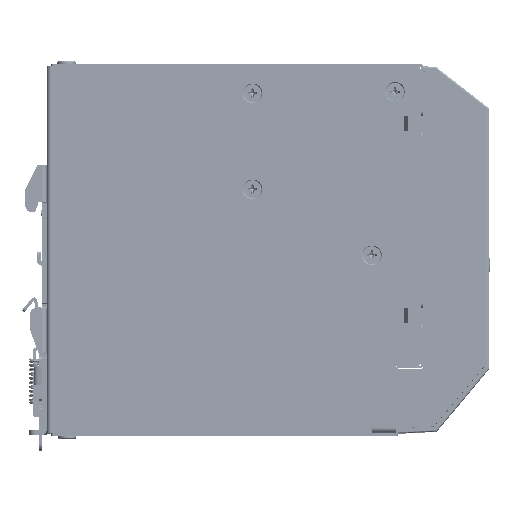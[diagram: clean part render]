
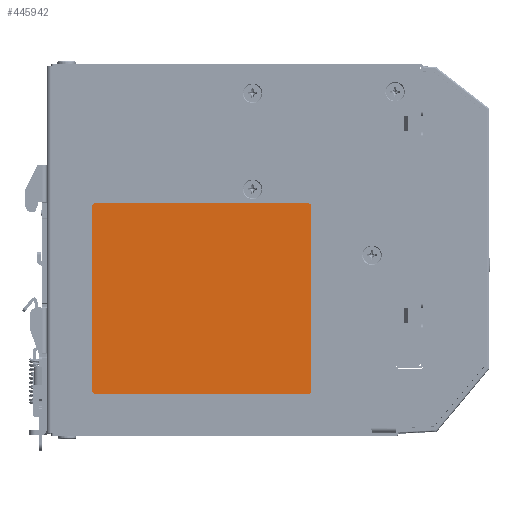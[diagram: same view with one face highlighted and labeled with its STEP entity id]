
A CAD part, top view. The second image highlights one B-rep face of the part: STEP entity #445942.
In plain terms, the highlighted planar face has unit normal (0, 0, 1).
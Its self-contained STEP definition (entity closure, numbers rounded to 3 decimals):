
#445711=CARTESIAN_POINT('',(-1.,-62.5,0.));
#445712=DIRECTION('',(0.,0.,1.));
#445713=DIRECTION('',(0.,-1.,0.));
#445714=AXIS2_PLACEMENT_3D('',#445711,#445712,#445713);
#445719=DIRECTION('',(1.,0.,0.));
#445720=VECTOR('',#445719,71.);
#445721=CARTESIAN_POINT('',(-72.,-63.5,0.));
#445722=LINE('',#445721,#445720);
#445726=CARTESIAN_POINT('',(-72.,-62.5,0.));
#445727=DIRECTION('',(0.,0.,1.));
#445728=DIRECTION('',(-1.,0.,0.));
#445729=AXIS2_PLACEMENT_3D('',#445726,#445727,#445728);
#445734=DIRECTION('',(0.,-1.,0.));
#445735=VECTOR('',#445734,61.5);
#445736=CARTESIAN_POINT('',(-73.,-1.,0.));
#445737=LINE('',#445736,#445735);
#445741=CARTESIAN_POINT('',(-72.,-1.,0.));
#445742=DIRECTION('',(0.,0.,1.));
#445743=DIRECTION('',(0.,1.,0.));
#445744=AXIS2_PLACEMENT_3D('',#445741,#445742,#445743);
#445749=DIRECTION('',(-1.,0.,0.));
#445750=VECTOR('',#445749,71.);
#445751=CARTESIAN_POINT('',(-1.,0.,0.));
#445752=LINE('',#445751,#445750);
#445756=CARTESIAN_POINT('',(-1.,-1.,0.));
#445757=DIRECTION('',(0.,0.,1.));
#445758=DIRECTION('',(1.,0.,0.));
#445759=AXIS2_PLACEMENT_3D('',#445756,#445757,#445758);
#445764=DIRECTION('',(0.,1.,0.));
#445765=VECTOR('',#445764,61.5);
#445766=CARTESIAN_POINT('',(0.,-62.5,0.));
#445767=LINE('',#445766,#445765);
#445891=CARTESIAN_POINT('',(-1.,-63.5,0.));
#445892=VERTEX_POINT('',#445891);
#445893=CARTESIAN_POINT('',(0.,-62.5,0.));
#445894=VERTEX_POINT('',#445893);
#445899=CARTESIAN_POINT('',(0.,-1.,0.));
#445900=VERTEX_POINT('',#445899);
#445901=CARTESIAN_POINT('',(-1.,0.,0.));
#445902=VERTEX_POINT('',#445901);
#445907=CARTESIAN_POINT('',(-72.,0.,0.));
#445908=VERTEX_POINT('',#445907);
#445909=CARTESIAN_POINT('',(-73.,-1.,0.));
#445910=VERTEX_POINT('',#445909);
#445915=CARTESIAN_POINT('',(-73.,-62.5,0.));
#445916=VERTEX_POINT('',#445915);
#445917=CARTESIAN_POINT('',(-72.,-63.5,0.));
#445918=VERTEX_POINT('',#445917);
#445919=CARTESIAN_POINT('',(0.,0.,0.));
#445920=DIRECTION('',(0.,0.,1.));
#445921=DIRECTION('',(1.,0.,0.));
#445922=AXIS2_PLACEMENT_3D('',#445919,#445920,#445921);
#445923=PLANE('',#445922);
#445925=ORIENTED_EDGE('',*,*,#445924,.F.);
#445927=ORIENTED_EDGE('',*,*,#445926,.F.);
#445929=ORIENTED_EDGE('',*,*,#445928,.F.);
#445931=ORIENTED_EDGE('',*,*,#445930,.F.);
#445933=ORIENTED_EDGE('',*,*,#445932,.F.);
#445935=ORIENTED_EDGE('',*,*,#445934,.F.);
#445937=ORIENTED_EDGE('',*,*,#445936,.F.);
#445939=ORIENTED_EDGE('',*,*,#445938,.F.);
#445940=EDGE_LOOP('',(#445925,#445927,#445929,#445931,#445933,#445935,#445937,
#445939));
#445941=FACE_OUTER_BOUND('',#445940,.F.);
#445715=CIRCLE('',#445714,1.);
#445730=CIRCLE('',#445729,1.);
#445745=CIRCLE('',#445744,1.);
#445760=CIRCLE('',#445759,1.);
#445924=EDGE_CURVE('',#445892,#445894,#445715,.T.);
#445926=EDGE_CURVE('',#445918,#445892,#445722,.T.);
#445928=EDGE_CURVE('',#445916,#445918,#445730,.T.);
#445930=EDGE_CURVE('',#445910,#445916,#445737,.T.);
#445932=EDGE_CURVE('',#445908,#445910,#445745,.T.);
#445934=EDGE_CURVE('',#445902,#445908,#445752,.T.);
#445936=EDGE_CURVE('',#445900,#445902,#445760,.T.);
#445938=EDGE_CURVE('',#445894,#445900,#445767,.T.);
#445942=ADVANCED_FACE('',(#445941),#445923,.T.);
